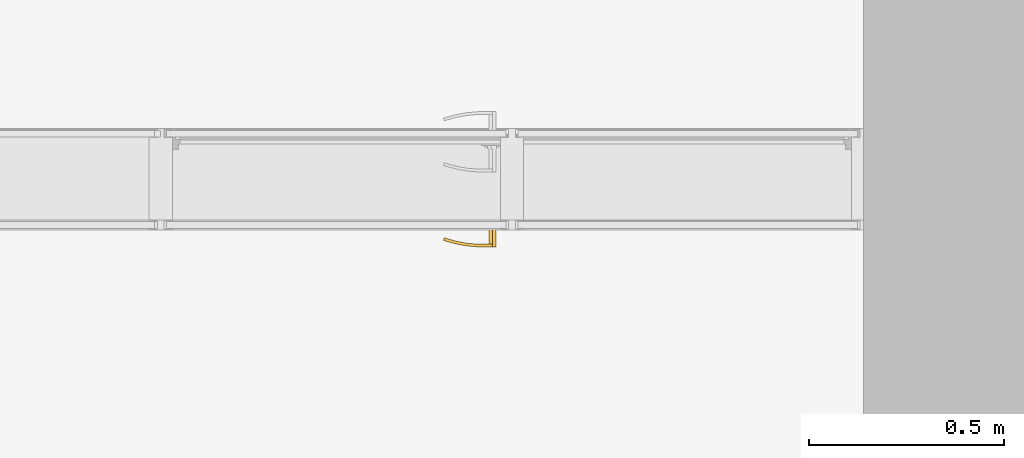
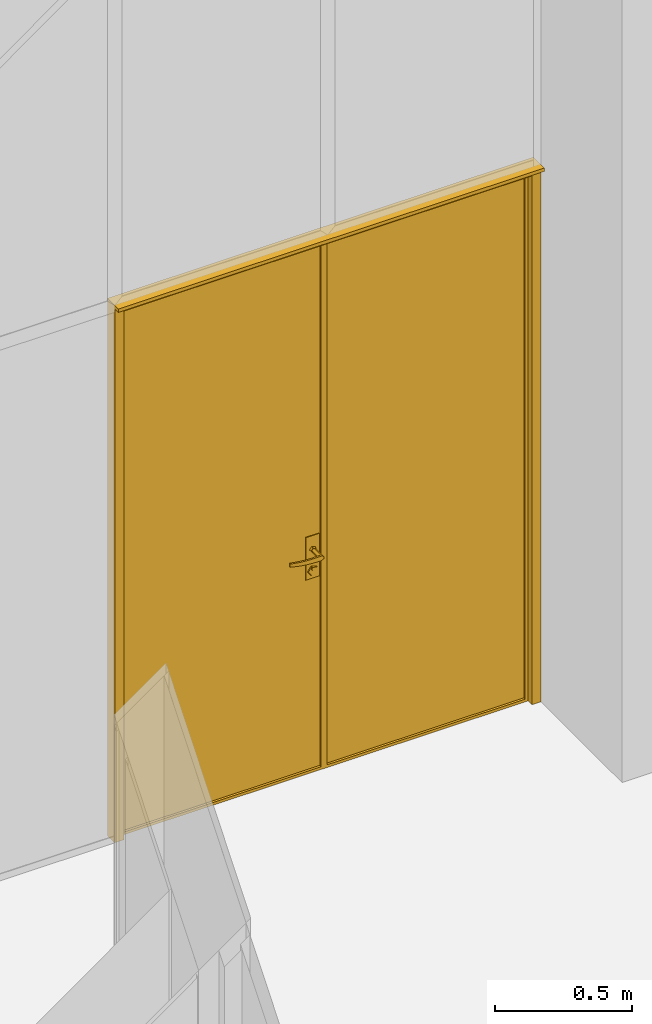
# One storey, part 162 of 246: 1 door, 1 element without a shape of its own.
"""IFC2X3 building model written with IfcOpenShell, lengths in millimetres."""

from ifc_helpers import new_model, entity, si_unit, converted_unit, derived_unit, money_unit, direction, frame, origin_with_axes, place, context, subcontext, project, spatial, open_shell, faceted_brep, surface_model, material, material_list, type_object, element, aggregate, save


model = new_model("IFC2X3")

# Units and contexts
model_context = context("Model", 3, precision=0.01, world=origin_with_axes(), true_north=direction((0.0, 1.0)))
body_context = subcontext(model_context, "Body", "Model", "MODEL_VIEW")
ifc_project = project(units=[si_unit("LENGTHUNIT", "METRE", prefix="MILLI"), si_unit("AREAUNIT", "SQUARE_METRE"), si_unit("VOLUMEUNIT", "CUBIC_METRE"), converted_unit("PLANEANGLEUNIT", "DEGREE", entity("IfcPlaneAngleMeasure", 0.0174532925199), si_unit("PLANEANGLEUNIT", "RADIAN"), dimensions=[0, 0, 0, 0, 0, 0, 0]), si_unit("SOLIDANGLEUNIT", "STERADIAN"), money_unit("EUR"), converted_unit("TIMEUNIT", "Year", entity("IfcTimeMeasure", 31556926.0), si_unit("TIMEUNIT", "SECOND"), dimensions=[0, 0, 1, 0, 0, 0, 0]), si_unit("MASSUNIT", "GRAM", prefix="KILO"), si_unit("THERMODYNAMICTEMPERATUREUNIT", "DEGREE_CELSIUS"), si_unit("LUMINOUSINTENSITYUNIT", "LUMEN"), si_unit("ENERGYUNIT", "JOULE", prefix="MEGA"), derived_unit("THERMALCONDUCTANCEUNIT", [(si_unit("POWERUNIT", "WATT"), 1), (si_unit("LENGTHUNIT", "METRE"), -1), (si_unit("THERMODYNAMICTEMPERATUREUNIT", "KELVIN"), -1)]), derived_unit("SPECIFICHEATCAPACITYUNIT", [(si_unit("ENERGYUNIT", "JOULE"), 1), (si_unit("MASSUNIT", "GRAM", prefix="KILO"), -1), (si_unit("THERMODYNAMICTEMPERATUREUNIT", "KELVIN"), -1)]), derived_unit("MASSDENSITYUNIT", [(si_unit("MASSUNIT", "GRAM", prefix="KILO"), 1), (si_unit("VOLUMEUNIT", "CUBIC_METRE"), -1)])], contexts=[model_context])

# Site, building, storey
site_placement = place(None, origin_with_axes())
site = spatial("IfcSite", under=ifc_project, at=site_placement, Name="L.Koidula tn 11b", CompositionType="ELEMENT")
building_placement = place(site_placement, origin_with_axes())
building = spatial("IfcBuilding", under=site, at=building_placement, Name="Rakvere Riigigümnaasium", CompositionType="ELEMENT")
storey_placement = place(building_placement, origin_with_axes())
storey = spatial("IfcBuildingStorey", under=building, at=storey_placement, Name="1.korrus 0,00", CompositionType="ELEMENT", Elevation=0.0)

# Curtain wall, door
curtain_wall_type = type_object("IfcCurtainWallType", Name="Curtain Wall Type", PredefinedType="NOTDEFINED")
curtain_wall_placement = place(storey_placement, frame((46459.9999921, 61346.4546496, -4.47035262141e-05), z_axis=(0.0, 0.0, 1.0), x_axis=(1.0, 0.0, 0.0)))
curtain_wall = element("IfcCurtainWall", 1, at=curtain_wall_placement, inside=storey, type_object=curtain_wall_type, Name="SKLF-04")
ifc_material_1 = material(Name="Alumiinium.")
ifc_material_2 = material(Name="VKR-05_Klaas")
ifc_material_3 = material(Name="ET-07_Teras - Roostevaba")
ifc_material_list = material_list([ifc_material_1, ifc_material_2, ifc_material_3])
door_style = type_object("IfcDoorStyle", Name="Siseklaasfassaad - Klaasuks-2-poolne 900 x 2385 x -64", ConstructionType="NOTDEFINED", OperationType="NOTDEFINED", ParameterTakesPrecedence=False, Sizeable=False)
door_placement = place(curtain_wall_placement, frame((-360.000000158, 0.0, 1200.00002235), z_axis=(0.0, 0.0, 1.0), x_axis=(-1.0, 0.0, 0.0)))
door = element("IfcDoor", 2, at=door_placement, type_object=door_style, material=ifc_material_list, Name="Panel-Siseklaasf-005", ObjectType="DOOR", context=body_context, shape_type="SurfaceModel", body=[
    faceted_brep([(-900.000001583, -48.0, -1200.00002235), (-900.000001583, -48.0, 1199.99997765), (-900.000001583, -34.0, 1199.99997765), (-900.000001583, -34.0, -1200.00002235), (-854.000001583, -48.0, -1200.00002235), (-854.000001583, -48.0, 1153.99997765), (-854.000001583, -34.0, 1153.99997765), (-854.000001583, -34.0, -1200.00002235)], [[[0, 1, 2, 3]], [[0, 4, 5, 1]], [[1, 5, 6, 2]], [[3, 2, 6, 7]], [[4, 0, 3, 7]], [[5, 4, 7, 6]]]),
    faceted_brep([(900.000000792, -48.0, 1199.99997765), (854.000000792, -48.0, 1153.99997765), (854.000000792, -34.0, 1153.99997765), (900.000000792, -34.0, 1199.99997765), (-900.000001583, -48.0, 1199.99997765), (-854.000001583, -48.0, 1153.99997765), (-854.000001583, -34.0, 1153.99997765), (-900.000001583, -34.0, 1199.99997765)], [[[0, 1, 2, 3]], [[0, 4, 5, 1]], [[1, 5, 6, 2]], [[3, 2, 6, 7]], [[4, 0, 3, 7]], [[5, 4, 7, 6]]]),
    faceted_brep([(900.000000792, -48.0, -1200.00002235), (854.000000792, -48.0, -1200.00002235), (854.000000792, -34.0, -1200.00002235), (900.000000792, -34.0, -1200.00002235), (900.000000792, -48.0, 1199.99997765), (854.000000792, -48.0, 1153.99997765), (854.000000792, -34.0, 1153.99997765), (900.000000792, -34.0, 1199.99997765)], [[[0, 1, 2, 3]], [[0, 4, 5, 1]], [[1, 5, 6, 2]], [[3, 2, 6, 7]], [[4, 0, 3, 7]], [[5, 4, 7, 6]]]),
    faceted_brep([(-900.000001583, -34.0, -1200.00002235), (-900.000001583, -34.0, 1199.99997765), (-900.000001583, 6.0, 1199.99997765), (-900.000001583, 6.0, -1200.00002235), (-862.000001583, -34.0, -1200.00002235), (-862.000001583, -34.0, 1161.99997765), (-862.000001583, 6.0, 1161.99997765), (-862.000001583, 6.0, -1200.00002235)], [[[0, 1, 2, 3]], [[0, 4, 5, 1]], [[1, 5, 6, 2]], [[3, 2, 6, 7]], [[4, 0, 3, 7]], [[5, 4, 7, 6]]]),
    faceted_brep([(900.000000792, -34.0, 1199.99997765), (862.000000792, -34.0, 1161.99997765), (862.000000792, 6.0, 1161.99997765), (900.000000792, 6.0, 1199.99997765), (-900.000001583, -34.0, 1199.99997765), (-862.000001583, -34.0, 1161.99997765), (-862.000001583, 6.0, 1161.99997765), (-900.000001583, 6.0, 1199.99997765)], [[[0, 1, 2, 3]], [[0, 4, 5, 1]], [[1, 5, 6, 2]], [[3, 2, 6, 7]], [[4, 0, 3, 7]], [[5, 4, 7, 6]]]),
    faceted_brep([(900.000000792, -34.0, -1200.00002235), (862.000000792, -34.0, -1200.00002235), (862.000000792, 6.0, -1200.00002235), (900.000000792, 6.0, -1200.00002235), (900.000000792, -34.0, 1199.99997765), (862.000000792, -34.0, 1161.99997765), (862.000000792, 6.0, 1161.99997765), (900.000000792, 6.0, 1199.99997765)], [[[0, 1, 2, 3]], [[0, 4, 5, 1]], [[1, 5, 6, 2]], [[3, 2, 6, 7]], [[4, 0, 3, 7]], [[5, 4, 7, 6]]]),
    faceted_brep([(-900.000001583, -32.0, 1199.99997765), (900.000000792, -32.0, 1199.99997765), (900.000000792, 32.0, 1199.99997765), (-900.000001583, 32.0, 1199.99997765), (-899.999999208, -32.0, 1184.99997765), (900.000000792, -32.0, 1184.99997765), (900.000000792, 32.0, 1184.99997765), (-899.999999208, 32.0, 1184.99997765)], [[[0, 1, 2, 3]], [[0, 4, 5, 1]], [[1, 5, 6, 2]], [[3, 2, 6, 7]], [[4, 0, 3, 7]], [[5, 4, 7, 6]]]),
    faceted_brep([(850.000000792, -34.0, -1188.00002235), (850.000000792, -34.0, 1149.99997765), (850.000000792, -22.0, 1149.99997765), (850.000000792, -22.0, -1188.00002235), (862.000000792, -34.0, -1200.00002235), (862.000000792, -34.0, 1161.99997765), (862.000000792, -22.0, 1161.99997765), (862.000000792, -22.0, -1200.00002235)], [[[0, 1, 2, 3]], [[0, 4, 5, 1]], [[1, 5, 6, 2]], [[3, 2, 6, 7]], [[4, 0, 3, 7]], [[5, 4, 7, 6]]]),
    faceted_brep([(-3.957936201e-07, -34.0, -1200.00002235), (-3.957936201e-07, -34.0, 1161.99997765), (-3.957936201e-07, -22.0, 1161.99997765), (-3.957936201e-07, -22.0, -1200.00002235), (11.9999996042, -34.0, -1188.00002235), (11.9999996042, -34.0, 1149.99997765), (11.9999996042, -22.0, 1149.99997765), (11.9999996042, -22.0, -1188.00002235)], [[[0, 1, 2, 3]], [[0, 4, 5, 1]], [[1, 5, 6, 2]], [[3, 2, 6, 7]], [[4, 0, 3, 7]], [[5, 4, 7, 6]]]),
    faceted_brep([(-3.957936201e-07, -34.0, -1200.00002235), (11.9999996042, -34.0, -1188.00002235), (11.9999996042, -22.0, -1188.00002235), (-3.957936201e-07, -22.0, -1200.00002235), (862.000000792, -34.0, -1200.00002235), (850.000000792, -34.0, -1188.00002235), (850.000000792, -22.0, -1188.00002235), (862.000000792, -22.0, -1200.00002235)], [[[0, 1, 2, 3]], [[0, 4, 5, 1]], [[1, 5, 6, 2]], [[3, 2, 6, 7]], [[4, 0, 3, 7]], [[5, 4, 7, 6]]]),
    faceted_brep([(862.000000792, -34.0, 1161.99997765), (850.000000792, -34.0, 1149.99997765), (850.000000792, -22.0, 1149.99997765), (862.000000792, -22.0, 1161.99997765), (-3.957936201e-07, -34.0, 1161.99997765), (11.9999996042, -34.0, 1149.99997765), (11.9999996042, -22.0, 1149.99997765), (-3.957936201e-07, -22.0, 1161.99997765)], [[[0, 1, 2, 3]], [[0, 4, 5, 1]], [[1, 5, 6, 2]], [[3, 2, 6, 7]], [[4, 0, 3, 7]], [[5, 4, 7, 6]]]),
    faceted_brep([(850.000000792, -48.0, -1188.00002235), (11.9999996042, -48.0, -1188.00002235), (11.9999996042, -32.0, -1188.00002235), (850.000000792, -32.0, -1188.00002235), (850.000000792, -48.0, 1149.99997765), (11.9999996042, -48.0, 1149.99997765), (11.9999996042, -32.0, 1149.99997765), (850.000000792, -32.0, 1149.99997765)], [[[0, 1, 2, 3]], [[0, 4, 5, 1]], [[1, 5, 6, 2]], [[3, 2, 6, 7]], [[4, 0, 3, 7]], [[5, 4, 7, 6]]]),
    faceted_brep([(21.4999996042, -22.0, -140.000022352), (78.4999996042, -22.0, -140.000022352), (78.4999996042, -19.0, -140.000022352), (21.4999996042, -19.0, -140.000022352), (21.4999996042, -22.0, -330.000022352), (78.4999996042, -22.0, -330.000022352), (78.4999996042, -19.0, -330.000022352), (21.4999996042, -19.0, -330.000022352)], [[[0, 1, 2, 3]], [[0, 4, 5, 1]], [[1, 5, 6, 2]], [[3, 2, 6, 7]], [[4, 0, 3, 7]], [[5, 4, 7, 6]]]),
    surface_model("IfcShellBasedSurfaceModel", [(49.9999996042, 42.0, -210.000022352), (41.3397455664, 42.0, -205.000022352), (41.3397455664, 49.0, -205.000022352), (49.9999996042, 49.0, -210.000022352), (74.9999996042, 42.0, -210.000022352), (74.9999996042, 42.0, -190.000022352), (49.9999996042, 42.0, -190.000022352), (41.3397455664, 42.0, -195.000022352), (41.3397455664, 49.0, -195.000022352), (49.9999996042, 49.0, -190.000022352), (74.9999996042, 49.0, -190.000022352), (74.9999996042, 49.0, -210.000022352)], [open_shell([[[0, 1, 2, 3]], [[0, 4, 5, 6, 7, 1]], [[1, 7, 8, 2]], [[3, 2, 8, 9, 10, 11]], [[4, 0, 3, 11]], [[6, 5, 10, 9]], [[7, 6, 9, 8]]])]),
    surface_model("IfcShellBasedSurfaceModel", [(74.9999996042, 42.0, -190.000022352), (88.0982824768, 42.0, -190.392721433), (88.4039090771, 49.0, -190.392721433), (74.9999996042, 42.0, -210.000022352), (88.0982824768, 42.0, -209.60732327), (115.109716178, 46.6635446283, -191.178119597), (74.9999996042, 49.0, -190.000022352), (74.9999996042, 49.0, -210.000022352), (114.19516238, 39.716818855, -208.821925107), (114.19516238, 39.716818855, -191.178119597), (115.109716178, 46.6635446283, -208.821925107), (88.4039090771, 49.0, -209.60732327), (139.993743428, 35.1678329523, -208.036526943), (139.993743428, 35.1678329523, -191.96351776), (141.510264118, 42.0084157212, -191.96351776), (141.510264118, 42.0084157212, -208.036526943), (165.297682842, 28.3876628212, -207.25112878), (165.297682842, 28.3876628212, -192.748915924), (167.404628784, 35.0700416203, -192.748915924), (167.404628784, 35.0700416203, -207.25112878), (173.170557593, 25.5221707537, -207.000022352), (173.170557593, 25.5221707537, -193.000022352), (175.461203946, 32.1376880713, -193.000022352), (175.461203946, 32.1376880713, -207.000022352)], [open_shell([[[0, 1, 2]], [[0, 3, 4, 1]], [[1, 5, 2]], [[0, 2, 6]], [[4, 3, 7]], [[1, 4, 8, 9]], [[1, 9, 5]], [[2, 5, 10, 11]], [[6, 2, 11, 7]], [[4, 7, 11]], [[8, 4, 11]], [[9, 8, 12, 13]], [[9, 14, 5]], [[5, 14, 15, 10]], [[8, 11, 10]], [[12, 8, 10]], [[13, 12, 16, 17]], [[9, 13, 14]], [[14, 18, 19, 15]], [[12, 10, 15]], [[16, 12, 15]], [[17, 16, 20, 21]], [[13, 17, 18]], [[13, 18, 14]], [[18, 22, 23, 19]], [[16, 15, 19]], [[20, 16, 19]], [[21, 20, 23, 22]], [[17, 21, 22]], [[17, 22, 18]], [[20, 19, 23]]])]),
    faceted_brep([(53.7082035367, -9.0, -211.412700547), (61.9999996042, -9.0, -200.000022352), (62.9999996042, -19.0, -200.000022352), (54.0172205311, -19.0, -212.363757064), (40.2917956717, -9.0, -207.053445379), (40.2917956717, -9.0, -192.946599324), (53.7082035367, -9.0, -188.587344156), (54.0172205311, -19.0, -187.63628764), (39.4827786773, -19.0, -192.358814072), (39.4827786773, -19.0, -207.641230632)], [[[0, 1, 2, 3]], [[1, 0, 4, 5, 6]], [[1, 6, 7, 2]], [[2, 7, 8, 9, 3]], [[4, 0, 3, 9]], [[5, 4, 9, 8]], [[6, 5, 8, 7]]]),
    faceted_brep([(56.1803394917, -15.0, -314.021152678), (69.9999996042, -15.0, -295.000022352), (71.9999996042, -19.0, -295.000022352), (56.7983734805, -19.0, -315.92326571), (33.8196597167, -15.0, -306.755727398), (33.8196597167, -15.0, -283.244317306), (56.1803394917, -15.0, -275.978892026), (56.7983734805, -19.0, -274.076778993), (32.201625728, -19.0, -282.068746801), (32.201625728, -19.0, -307.931297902)], [[[0, 1, 2, 3]], [[1, 0, 4, 5, 6]], [[1, 6, 7, 2]], [[2, 7, 8, 9, 3]], [[4, 0, 3, 9]], [[5, 4, 9, 8]], [[6, 5, 8, 7]]]),
    faceted_brep([(52.1631185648, -13.0, -292.657417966), (56.9999996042, -13.0, -286.000022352), (57.9999996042, -15.0, -286.000022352), (52.4721355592, -15.0, -293.608474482), (44.3368806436, -13.0, -290.114519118), (44.3368806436, -13.0, -281.885525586), (52.1631185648, -13.0, -279.342626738), (52.4721355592, -15.0, -278.391570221), (43.5278636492, -15.0, -281.297740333), (43.5278636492, -15.0, -290.70230437)], [[[0, 1, 2, 3]], [[1, 0, 4, 5, 6]], [[1, 6, 7, 2]], [[2, 7, 8, 9, 3]], [[4, 0, 3, 9]], [[5, 4, 9, 8]], [[6, 5, 8, 7]]]),
    faceted_brep([(49.9999996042, -9.0, -190.000022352), (59.5105647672, -9.0, -196.909852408), (59.5105647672, 42.0, -196.909852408), (49.9999996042, 42.0, -190.000022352), (40.4894344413, -9.0, -196.909852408), (44.1221470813, -9.0, -208.090192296), (55.8778521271, -9.0, -208.090192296), (55.8778521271, 42.0, -208.090192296), (44.1221470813, 42.0, -208.090192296), (40.4894344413, 42.0, -196.909852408)], [[[0, 1, 2, 3]], [[0, 4, 5, 6, 1]], [[1, 6, 7, 2]], [[3, 2, 7, 8, 9]], [[4, 0, 3, 9]], [[5, 4, 9, 8]], [[6, 5, 8, 7]]]),
    faceted_brep([(21.4999996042, -34.0, -140.000022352), (21.4999996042, -37.0, -140.000022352), (78.4999996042, -37.0, -140.000022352), (78.4999996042, -34.0, -140.000022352), (21.4999996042, -34.0, -330.000022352), (21.4999996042, -37.0, -330.000022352), (78.4999996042, -37.0, -330.000022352), (78.4999996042, -34.0, -330.000022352)], [[[0, 1, 2, 3]], [[4, 5, 1, 0]], [[1, 5, 6, 2]], [[3, 2, 6, 7]], [[0, 3, 7, 4]], [[7, 6, 5, 4]]]),
    surface_model("IfcShellBasedSurfaceModel", [(49.9999996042, -98.0, -210.000022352), (49.9999996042, -105.0, -210.000022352), (41.3397455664, -105.0, -205.000022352), (41.3397455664, -98.0, -205.000022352), (74.9999996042, -98.0, -210.000022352), (74.9999996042, -105.0, -210.000022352), (74.9999996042, -105.0, -190.000022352), (49.9999996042, -105.0, -190.000022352), (41.3397455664, -105.0, -195.000022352), (41.3397455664, -98.0, -195.000022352), (49.9999996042, -98.0, -190.000022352), (74.9999996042, -98.0, -190.000022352)], [open_shell([[[0, 1, 2, 3]], [[4, 5, 1, 0]], [[1, 5, 6, 7, 8, 2]], [[3, 2, 8, 9]], [[0, 3, 9, 10, 11, 4]], [[10, 7, 6, 11]], [[9, 8, 7, 10]]])]),
    surface_model("IfcShellBasedSurfaceModel", [(74.9999996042, -98.0, -190.000022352), (88.4039090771, -105.0, -190.392721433), (88.0982824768, -98.0, -190.392721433), (74.9999996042, -105.0, -190.000022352), (115.109716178, -102.663544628, -191.178119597), (88.0982824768, -98.0, -209.60732327), (74.9999996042, -98.0, -210.000022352), (74.9999996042, -105.0, -210.000022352), (88.4039090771, -105.0, -209.60732327), (115.109716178, -102.663544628, -208.821925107), (114.19516238, -95.716818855, -191.178119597), (114.19516238, -95.716818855, -208.821925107), (141.510264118, -98.0084157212, -208.036526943), (141.510264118, -98.0084157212, -191.96351776), (139.993743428, -91.1678329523, -191.96351776), (139.993743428, -91.1678329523, -208.036526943), (167.404628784, -91.0700416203, -207.25112878), (167.404628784, -91.0700416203, -192.748915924), (165.297682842, -84.3876628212, -192.748915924), (165.297682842, -84.3876628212, -207.25112878), (175.461203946, -88.1376880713, -207.000022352), (175.461203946, -88.1376880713, -193.000022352), (173.170557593, -81.5221707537, -193.000022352), (173.170557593, -81.5221707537, -207.000022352)], [open_shell([[[0, 1, 2]], [[0, 3, 1]], [[2, 1, 4]], [[0, 2, 5, 6]], [[3, 7, 8, 1]], [[1, 8, 9, 4]], [[2, 4, 10]], [[2, 10, 11, 5]], [[5, 7, 6]], [[5, 8, 7]], [[11, 9, 8]], [[4, 9, 12, 13]], [[10, 4, 13]], [[10, 14, 15, 11]], [[11, 8, 5]], [[15, 9, 11]], [[15, 12, 9]], [[13, 12, 16, 17]], [[10, 13, 14]], [[14, 18, 19, 15]], [[19, 12, 15]], [[19, 16, 12]], [[17, 16, 20, 21]], [[14, 13, 17]], [[14, 17, 18]], [[18, 22, 23, 19]], [[23, 16, 19]], [[23, 20, 16]], [[22, 21, 20, 23]], [[18, 17, 21]], [[18, 21, 22]]])]),
    faceted_brep([(53.7082035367, -47.0, -211.412700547), (54.0172205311, -37.0, -212.363757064), (62.9999996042, -37.0, -200.000022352), (61.9999996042, -47.0, -200.000022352), (40.2917956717, -47.0, -207.053445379), (39.4827786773, -37.0, -207.641230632), (39.4827786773, -37.0, -192.358814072), (54.0172205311, -37.0, -187.63628764), (53.7082035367, -47.0, -188.587344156), (40.2917956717, -47.0, -192.946599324)], [[[0, 1, 2, 3]], [[4, 5, 1, 0]], [[2, 1, 5, 6, 7]], [[3, 2, 7, 8]], [[3, 8, 9, 4, 0]], [[9, 6, 5, 4]], [[8, 7, 6, 9]]]),
    faceted_brep([(56.1803394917, -41.0, -314.021152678), (56.7983734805, -37.0, -315.92326571), (71.9999996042, -37.0, -295.000022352), (69.9999996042, -41.0, -295.000022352), (33.8196597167, -41.0, -306.755727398), (32.201625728, -37.0, -307.931297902), (32.201625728, -37.0, -282.068746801), (56.7983734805, -37.0, -274.076778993), (56.1803394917, -41.0, -275.978892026), (33.8196597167, -41.0, -283.244317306)], [[[0, 1, 2, 3]], [[4, 5, 1, 0]], [[2, 1, 5, 6, 7]], [[3, 2, 7, 8]], [[3, 8, 9, 4, 0]], [[9, 6, 5, 4]], [[8, 7, 6, 9]]]),
    faceted_brep([(52.1631185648, -43.0, -292.657417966), (52.4721355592, -41.0, -293.608474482), (57.9999996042, -41.0, -286.000022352), (56.9999996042, -43.0, -286.000022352), (44.3368806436, -43.0, -290.114519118), (43.5278636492, -41.0, -290.70230437), (43.5278636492, -41.0, -281.297740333), (52.4721355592, -41.0, -278.391570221), (52.1631185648, -43.0, -279.342626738), (44.3368806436, -43.0, -281.885525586)], [[[0, 1, 2, 3]], [[4, 5, 1, 0]], [[2, 1, 5, 6, 7]], [[3, 2, 7, 8]], [[3, 8, 9, 4, 0]], [[9, 6, 5, 4]], [[8, 7, 6, 9]]]),
    faceted_brep([(49.9999996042, -47.0, -190.000022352), (49.9999996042, -98.0, -190.000022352), (59.5105647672, -98.0, -196.909852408), (59.5105647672, -47.0, -196.909852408), (40.4894344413, -47.0, -196.909852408), (40.4894344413, -98.0, -196.909852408), (44.1221470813, -98.0, -208.090192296), (55.8778521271, -98.0, -208.090192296), (55.8778521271, -47.0, -208.090192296), (44.1221470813, -47.0, -208.090192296)], [[[0, 1, 2, 3]], [[4, 5, 1, 0]], [[1, 5, 6, 7, 2]], [[3, 2, 7, 8]], [[0, 3, 8, 9, 4]], [[9, 6, 5, 4]], [[8, 7, 6, 9]]]),
    faceted_brep([(-12.0000003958, -34.0, -1188.00002235), (-12.0000003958, -34.0, 1149.99997765), (-12.0000003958, -22.0, 1149.99997765), (-12.0000003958, -22.0, -1188.00002235), (-3.957936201e-07, -34.0, -1200.00002235), (-3.957936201e-07, -34.0, 1161.99997765), (-3.957936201e-07, -22.0, 1161.99997765), (-3.957936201e-07, -22.0, -1200.00002235)], [[[0, 1, 2, 3]], [[0, 4, 5, 1]], [[1, 5, 6, 2]], [[3, 2, 6, 7]], [[4, 0, 3, 7]], [[5, 4, 7, 6]]]),
    faceted_brep([(-862.000001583, -34.0, -1200.00002235), (-862.000001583, -34.0, 1161.99997765), (-862.000001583, -22.0, 1161.99997765), (-862.000001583, -22.0, -1200.00002235), (-850.000001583, -34.0, -1188.00002235), (-850.000001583, -34.0, 1149.99997765), (-850.000001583, -22.0, 1149.99997765), (-850.000001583, -22.0, -1188.00002235)], [[[0, 1, 2, 3]], [[0, 4, 5, 1]], [[1, 5, 6, 2]], [[3, 2, 6, 7]], [[4, 0, 3, 7]], [[5, 4, 7, 6]]]),
    faceted_brep([(-862.000001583, -34.0, -1200.00002235), (-850.000001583, -34.0, -1188.00002235), (-850.000001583, -22.0, -1188.00002235), (-862.000001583, -22.0, -1200.00002235), (-3.957936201e-07, -34.0, -1200.00002235), (-12.0000003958, -34.0, -1188.00002235), (-12.0000003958, -22.0, -1188.00002235), (-3.957936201e-07, -22.0, -1200.00002235)], [[[0, 1, 2, 3]], [[0, 4, 5, 1]], [[1, 5, 6, 2]], [[3, 2, 6, 7]], [[4, 0, 3, 7]], [[5, 4, 7, 6]]]),
    faceted_brep([(-3.957936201e-07, -34.0, 1161.99997765), (-12.0000003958, -34.0, 1149.99997765), (-12.0000003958, -22.0, 1149.99997765), (-3.957936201e-07, -22.0, 1161.99997765), (-862.000001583, -34.0, 1161.99997765), (-850.000001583, -34.0, 1149.99997765), (-850.000001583, -22.0, 1149.99997765), (-862.000001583, -22.0, 1161.99997765)], [[[0, 1, 2, 3]], [[0, 4, 5, 1]], [[1, 5, 6, 2]], [[3, 2, 6, 7]], [[4, 0, 3, 7]], [[5, 4, 7, 6]]]),
    faceted_brep([(-12.0000003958, -48.0, -1188.00002235), (-850.000001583, -48.0, -1188.00002235), (-850.000001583, -32.0, -1188.00002235), (-12.0000003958, -32.0, -1188.00002235), (-12.0000003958, -48.0, 1149.99997765), (-850.000001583, -48.0, 1149.99997765), (-850.000001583, -32.0, 1149.99997765), (-12.0000003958, -32.0, 1149.99997765)], [[[0, 1, 2, 3]], [[0, 4, 5, 1]], [[1, 5, 6, 2]], [[3, 2, 6, 7]], [[4, 0, 3, 7]], [[5, 4, 7, 6]]]),
])
aggregate(curtain_wall, [door])

save(model, "model.ifc")
